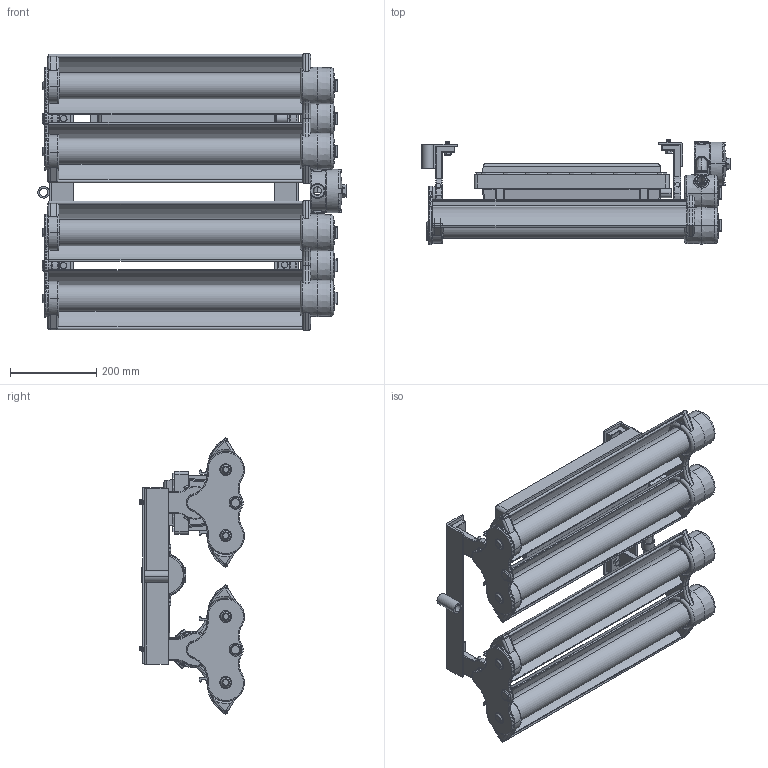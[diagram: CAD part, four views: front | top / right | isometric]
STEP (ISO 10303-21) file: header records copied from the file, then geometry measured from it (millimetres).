
FILE_DESCRIPTION (( 'STEP AP214' ), '1' );
FILE_NAME ('EPL-EMG-24-4L-PND.STEP', '2015-09-04T16:11:21', ( '' ), ( '' ), 'SwSTEP 2.0', 'SolidWorks 2015', '' );
FILE_SCHEMA (( 'AUTOMOTIVE_DESIGN' ));
Length unit declared in the file: inch
Products named in the file (5): 4x 16 angle with hole; 4x 16 angle; hex bolt_ai_HBOLT 0.3750-16x1x1-S; EPL-24-4L-SFC_1 Ballast PND; EPL-EMG-24-4L-PND
Assembly tree (7 placements, depth 2):
  EPL-EMG-24-4L-PND
    EPL-24-4L-SFC_1 Ballast PND
    hex bolt_ai_HBOLT 0.3750-16x1x1-S  x4
    4x 16 angle
    4x 16 angle with hole
Bounding box: 712.84 x 242.8 x 641.13 mm (x, y, z)
Volume: 434073.6 mm3; surface area: 2414046.8 mm2
Topology: 6 solids, 54 shells, 1741 faces, 4675 edges, 2942 vertices
Faces by surface type: cylinder 538, plane 466, cone 346, torus 291, bspline 61, sphere 39
Entity records: 64097 total; most frequent: CARTESIAN_POINT 21062, DIRECTION 7620, ORIENTED_EDGE 6892, EDGE_CURVE 3805, AXIS2_PLACEMENT_3D 2935, VERTEX_POINT 2426, VECTOR 1750, LINE 1750
